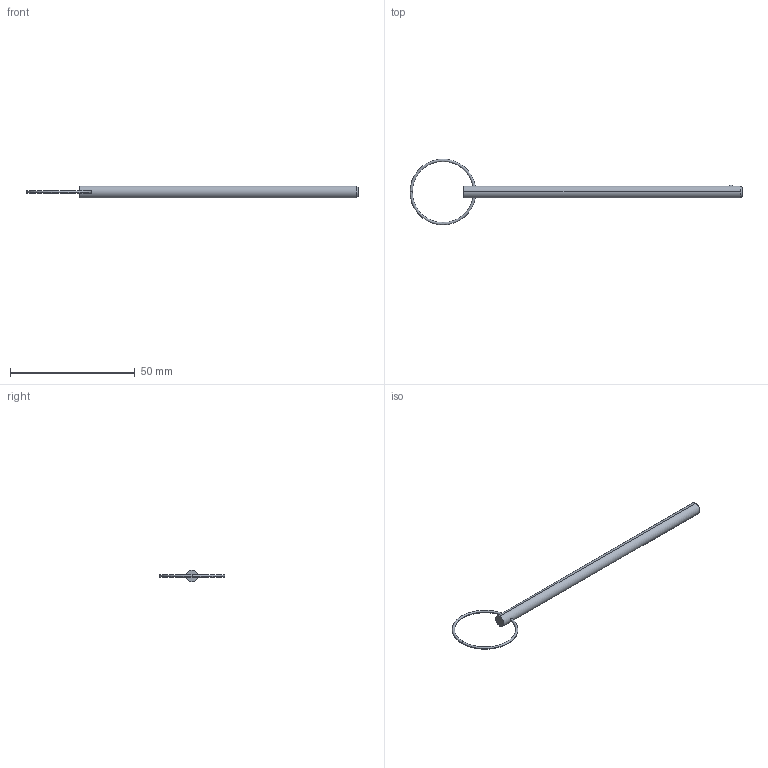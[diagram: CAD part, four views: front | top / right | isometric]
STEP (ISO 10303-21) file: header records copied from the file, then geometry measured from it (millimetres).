
FILE_DESCRIPTION (( 'STEP AP203' ), '1' );
FILE_NAME ('33012.W1840.step', '2024-11-01T14:06:37', ( '' ), ( '' ), 'SwSTEP 2.0', 'SolidWorks 2019', '' );
FILE_SCHEMA (( 'CONFIG_CONTROL_DESIGN' ));
Length unit declared in the file: millimetre
Products named in the file (3): 33012.W1840; Part1_33012.W1840; Part2_33012.W1840
Assembly tree (2 placements, depth 2):
  33012.W1840
    Part1_33012.W1840
    Part2_33012.W1840
Bounding box: 132.94 x 26.35 x 4.76 mm (x, y, z)
Volume: 2032.3 mm3; surface area: 1950.9 mm2
Topology: 2 solids, 2 shells, 16 faces, 31 edges, 18 vertices
Faces by surface type: torus 8, sphere 2, cone 2, cylinder 2, plane 2
Entity records: 779 total; most frequent: CARTESIAN_POINT 136, DIRECTION 88, ORIENTED_EDGE 62, AXIS2_PLACEMENT_3D 42, EDGE_CURVE 31, PERSON_AND_ORGANIZATION 26, CIRCLE 21, LOCAL_TIME 19
